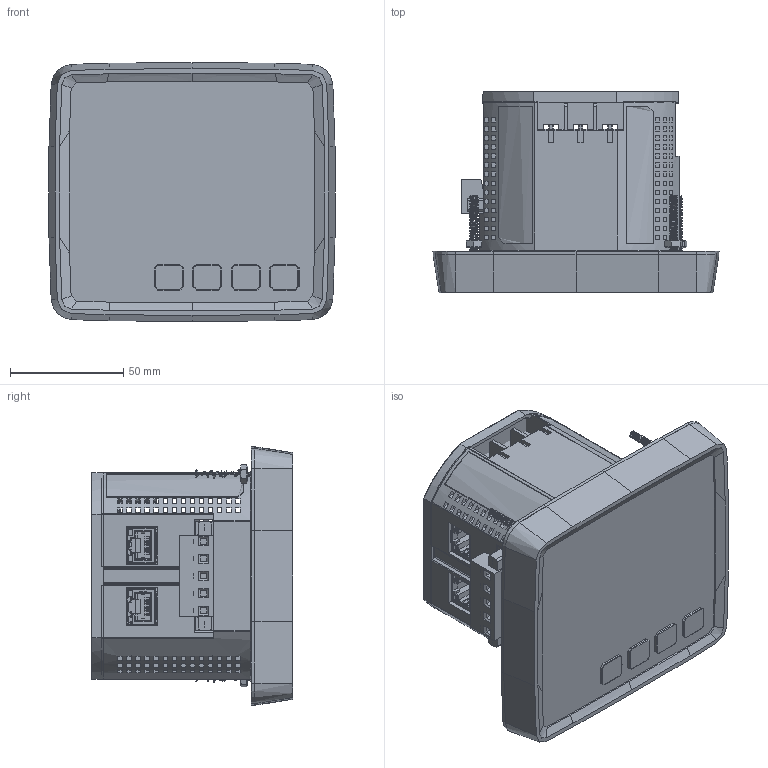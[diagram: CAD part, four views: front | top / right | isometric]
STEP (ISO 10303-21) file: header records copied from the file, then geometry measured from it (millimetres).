
FILE_DESCRIPTION(/* description */ (''),/* implementation_level */ '2;1');
FILE_NAME(/* name */ 'AMGDY7~8',/* time_stamp */ '2023-05-03T16:36:37+09:00',/* author */ (''),/* organization */ (''),/* preprocessor_version */ 'ST-DEVELOPER v15',/* originating_system */ '',/* authorisation */ '');
FILE_SCHEMA (('AUTOMOTIVE_DESIGN'));
Products named in the file (47): Document; 블록 22; pcb-power; me-050-762-05; 블록 04; Case-Rack-BUSBAR; 블록 13; M3 X 6 P T; 블록 32; Back-Sticker; 블록 05; truss cross head screw_ks_KS 1023 TC - M2 x 5-N; 블록 14; Case-Back2; insert-m3-80; 블록 08; insert-m4-35; 블록 02; Case-Back; 블록 30; Case-Front1; Case-Front; 블록 03; Rubber-Key Ass''y; Rubber-Key; 블록 31; Window-Display Ass''y; window-display; 블록 33; tape-window; 블록 07; mc-101-762-05; 블록 01; DTC LCD Ass''y; LCD-Glass; 블록 68; LCD-Bracket; 블록 55; hexagon nut style 1 gradeab_ks_KS 1012 S1 - M4-W-N; 블록 59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
Assembly tree (63 placements, depth 4):
  Document
    블록 22  x2
    pcb-power
      me-050-762-05
        블록 04
    Case-Rack-BUSBAR
      블록 13
    M3 X 6 P T  x2
      블록 32
    Back-Sticker
      블록 05
    truss cross head screw_ks_KS 1023 TC - M2 x 5-N  x2
      블록 14
    Case-Back2
      insert-m3-80  x2
        블록 08
      insert-m4-35  x10
        블록 02
      Case-Back
        블록 30
    Case-Front1
      Case-Front
        블록 03
    Rubber-Key Ass''y
      Rubber-Key
        블록 31
    Window-Display Ass''y
      window-display
        블록 33
      tape-window
        블록 07
    mc-101-762-05
      블록 01
    DTC LCD Ass''y
      LCD-Glass
        블록 68
      LCD-Bracket
        블록 55
    hexagon nut style 1 gradeab_ks_KS 1012 S1 - M4-W-N  x3
      블록 59
    bolt-m4-no-head  x3
      블록 35
    Case-Cap Ass''y
      Back-Sticker12
        블록 47
      Case-Cap
        블록 44
Bounding box: 126.14 x 88.83 x 114.14 mm (x, y, z)
Volume: 14667.7 mm3; surface area: 244050.8 mm2
Topology: 1 solids, 7601 shells, 7606 faces, 43258 edges, 43236 vertices
Faces by surface type: bspline 4250, plane 3356
Entity records: 638343 total; most frequent: CARTESIAN_POINT 477709, ORIENTED_EDGE 29904, EDGE_CURVE 29892, VERTEX_POINT 29886, B_SPLINE_CURVE_WITH_KNOTS 22525, EDGE_LOOP 5926, ADVANCED_FACE 5300, FACE_OUTER_BOUND 5300
